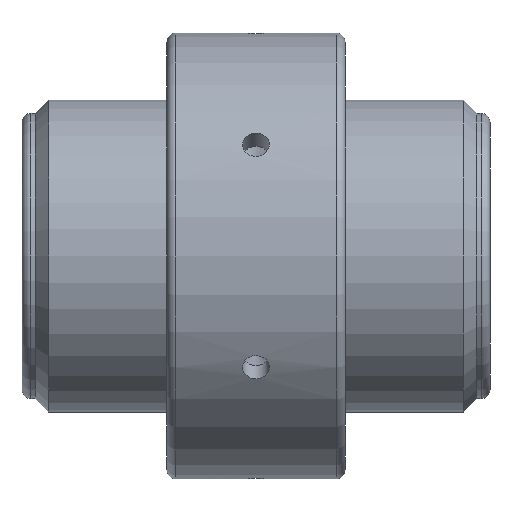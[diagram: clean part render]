
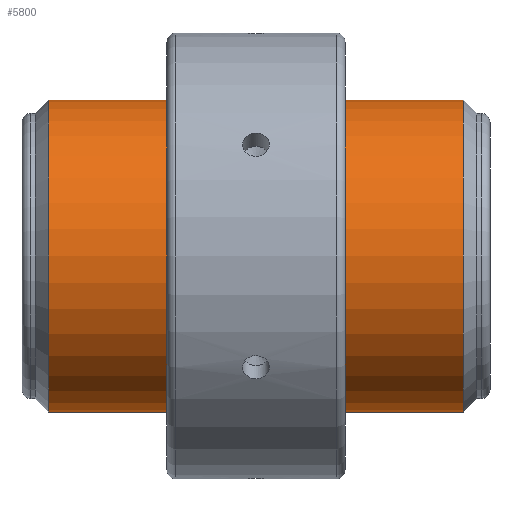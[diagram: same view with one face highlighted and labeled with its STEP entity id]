
A CAD part, left-side view. The second image highlights one B-rep face of the part: STEP entity #5800.
In plain terms, the highlighted cylindrical face has radius 35 mm (diameter 70 mm), a full revolution.
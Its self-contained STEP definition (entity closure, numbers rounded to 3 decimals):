
#37=CYLINDRICAL_SURFACE('',#6094,35.);
#56=CIRCLE('',#6093,35.);
#57=CIRCLE('',#6095,35.);
#88=FACE_BOUND('',#1226,.T.);
#875=FACE_OUTER_BOUND('',#1225,.T.);
#1225=EDGE_LOOP('',(#4639));
#1226=EDGE_LOOP('',(#4640));
#2614=VERTEX_POINT('',#9095);
#2615=VERTEX_POINT('',#9098);
#3344=EDGE_CURVE('',#2614,#2614,#56,.T.);
#3345=EDGE_CURVE('',#2615,#2615,#57,.T.);
#4639=ORIENTED_EDGE('',*,*,#3344,.T.);
#4640=ORIENTED_EDGE('',*,*,#3345,.F.);
#5800=ADVANCED_FACE('',(#875,#88),#37,.T.);
#6093=AXIS2_PLACEMENT_3D('',#9096,#6553,#6554);
#6094=AXIS2_PLACEMENT_3D('',#9097,#6555,#6556);
#6095=AXIS2_PLACEMENT_3D('',#9099,#6557,#6558);
#6553=DIRECTION('center_axis',(0.,-1.,0.));
#6554=DIRECTION('ref_axis',(1.,0.,0.));
#6555=DIRECTION('center_axis',(0.,-1.,0.));
#6556=DIRECTION('ref_axis',(1.,0.,0.));
#6557=DIRECTION('center_axis',(0.,-1.,0.));
#6558=DIRECTION('ref_axis',(1.,0.,0.));
#9095=CARTESIAN_POINT('',(35.,46.5,0.));
#9096=CARTESIAN_POINT('Origin',(0.,46.5,0.));
#9097=CARTESIAN_POINT('Origin',(0.,0.,0.));
#9098=CARTESIAN_POINT('',(35.,-46.5,0.));
#9099=CARTESIAN_POINT('Origin',(0.,-46.5,0.));
